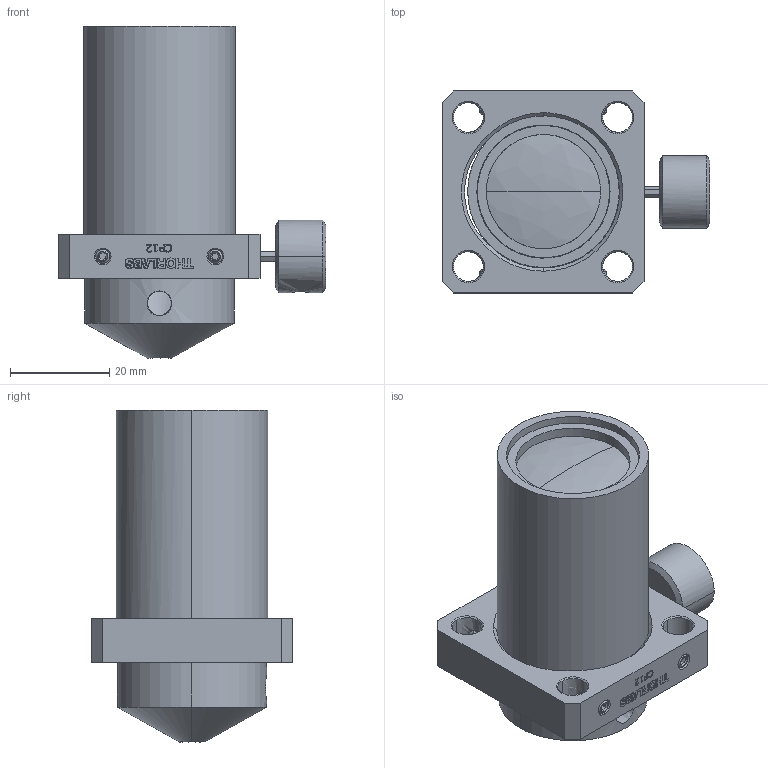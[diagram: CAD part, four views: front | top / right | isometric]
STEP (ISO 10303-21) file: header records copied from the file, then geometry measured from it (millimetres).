
FILE_DESCRIPTION(/* description */ (''),/* implementation_level */ '2;1');
FILE_NAME(/* name */ 'OP2DEC~1',/* time_stamp */ '2014-02-14T19:50:11+01:00',/* author */ (''),/* organization */ (''),/* preprocessor_version */ 'ST-DEVELOPER v14',/* originating_system */ '',/* authorisation */ '');
FILE_SCHEMA (('AUTOMOTIVE_DESIGN'));
Length unit declared in the file: millimetre
Products named in the file (1): Document
Bounding box: 53.91 x 40.64 x 66.8 mm (x, y, z)
Volume: 25630.5 mm3; surface area: 20997.7 mm2
Topology: 13 solids, 14 shells, 932 faces, 2378 edges, 1509 vertices
Faces by surface type: plane 475, bspline 457
Entity records: 68988 total; most frequent: CARTESIAN_POINT 37206, B_SPLINE_CURVE_WITH_KNOTS 6582, ORIENTED_EDGE 4722, PCURVE 4722, DEFINITIONAL_REPRESENTATION 4722, SURFACE_CURVE 2362, EDGE_CURVE 2362, VERTEX_POINT 1509
